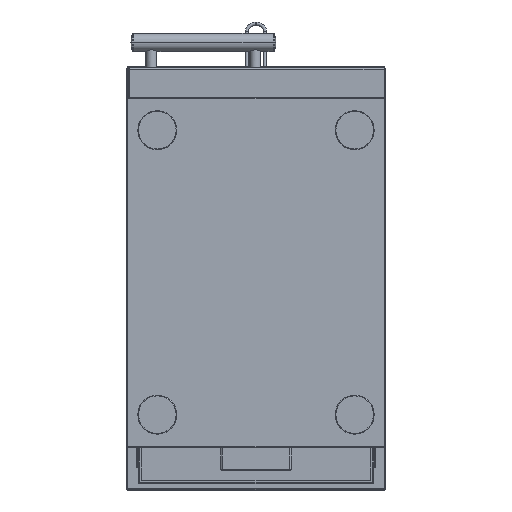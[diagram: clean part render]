
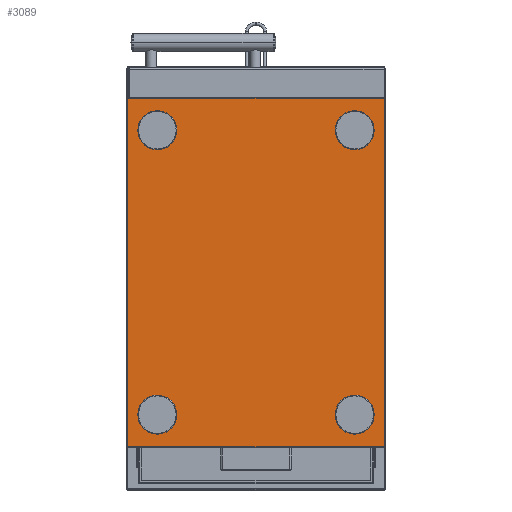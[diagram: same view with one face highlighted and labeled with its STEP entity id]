
A CAD part, front view. The second image highlights one B-rep face of the part: STEP entity #3089.
In plain terms, the highlighted planar face has unit normal (0, -1, 0).
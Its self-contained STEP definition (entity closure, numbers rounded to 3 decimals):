
#876=CARTESIAN_POINT('',(152.,-352.5,-219.));
#877=DIRECTION('',(0.,-1.,0.));
#878=DIRECTION('',(1.,0.,0.));
#879=AXIS2_PLACEMENT_3D('',#876,#877,#878);
#881=CARTESIAN_POINT('',(152.,-352.5,-219.));
#882=DIRECTION('',(0.,-1.,0.));
#883=DIRECTION('',(-1.,0.,0.));
#884=AXIS2_PLACEMENT_3D('',#881,#882,#883);
#886=CARTESIAN_POINT('',(152.,-352.5,219.));
#887=DIRECTION('',(0.,-1.,0.));
#888=DIRECTION('',(1.,0.,0.));
#889=AXIS2_PLACEMENT_3D('',#886,#887,#888);
#891=CARTESIAN_POINT('',(152.,-352.5,219.));
#892=DIRECTION('',(0.,-1.,0.));
#893=DIRECTION('',(-1.,0.,0.));
#894=AXIS2_PLACEMENT_3D('',#891,#892,#893);
#896=CARTESIAN_POINT('',(-152.,-352.5,-219.));
#897=DIRECTION('',(0.,1.,0.));
#898=DIRECTION('',(-1.,0.,0.));
#899=AXIS2_PLACEMENT_3D('',#896,#897,#898);
#901=CARTESIAN_POINT('',(-152.,-352.5,-219.));
#902=DIRECTION('',(0.,1.,0.));
#903=DIRECTION('',(1.,0.,0.));
#904=AXIS2_PLACEMENT_3D('',#901,#902,#903);
#906=CARTESIAN_POINT('',(-152.,-352.5,219.));
#907=DIRECTION('',(0.,1.,0.));
#908=DIRECTION('',(-1.,0.,0.));
#909=AXIS2_PLACEMENT_3D('',#906,#907,#908);
#911=CARTESIAN_POINT('',(-152.,-352.5,219.));
#912=DIRECTION('',(0.,1.,0.));
#913=DIRECTION('',(1.,0.,0.));
#914=AXIS2_PLACEMENT_3D('',#911,#912,#913);
#916=DIRECTION('',(0.,0.,-1.));
#917=VECTOR('',#916,536.4);
#918=CARTESIAN_POINT('',(197.2,-352.5,268.2));
#919=LINE('',#918,#917);
#920=DIRECTION('',(-1.,0.,0.));
#921=VECTOR('',#920,394.4);
#922=CARTESIAN_POINT('',(197.2,-352.5,-268.2));
#923=LINE('',#922,#921);
#924=DIRECTION('',(0.,0.,1.));
#925=VECTOR('',#924,536.4);
#926=CARTESIAN_POINT('',(-197.2,-352.5,-268.2));
#927=LINE('',#926,#925);
#928=DIRECTION('',(-1.,0.,0.));
#929=VECTOR('',#928,394.4);
#930=CARTESIAN_POINT('',(197.2,-352.5,268.2));
#931=LINE('',#930,#929);
#1454=CARTESIAN_POINT('',(182.,-352.5,-219.));
#1455=CARTESIAN_POINT('',(122.,-352.5,-219.));
#1456=VERTEX_POINT('',#1454);
#1457=VERTEX_POINT('',#1455);
#1486=CARTESIAN_POINT('',(197.2,-352.5,268.2));
#1487=CARTESIAN_POINT('',(197.2,-352.5,-268.2));
#1488=VERTEX_POINT('',#1486);
#1489=VERTEX_POINT('',#1487);
#1492=CARTESIAN_POINT('',(-197.2,-352.5,268.2));
#1493=VERTEX_POINT('',#1492);
#1496=CARTESIAN_POINT('',(-197.2,-352.5,-268.2));
#1497=VERTEX_POINT('',#1496);
#1554=CARTESIAN_POINT('',(182.,-352.5,219.));
#1555=CARTESIAN_POINT('',(122.,-352.5,219.));
#1556=VERTEX_POINT('',#1554);
#1557=VERTEX_POINT('',#1555);
#1562=CARTESIAN_POINT('',(-182.,-352.5,-219.));
#1563=VERTEX_POINT('',#1562);
#1564=CARTESIAN_POINT('',(-122.,-352.5,-219.));
#1565=VERTEX_POINT('',#1564);
#1570=CARTESIAN_POINT('',(-182.,-352.5,219.));
#1571=VERTEX_POINT('',#1570);
#1572=CARTESIAN_POINT('',(-122.,-352.5,219.));
#1573=VERTEX_POINT('',#1572);
#3052=CARTESIAN_POINT('',(-199.,-352.5,270.));
#3053=DIRECTION('',(0.,-1.,0.));
#3054=DIRECTION('',(0.,0.,-1.));
#3055=AXIS2_PLACEMENT_3D('',#3052,#3053,#3054);
#3056=PLANE('',#3055);
#3058=ORIENTED_EDGE('',*,*,#3057,.T.);
#3060=ORIENTED_EDGE('',*,*,#3059,.T.);
#3061=ORIENTED_EDGE('',*,*,#3020,.T.);
#3062=ORIENTED_EDGE('',*,*,#3043,.F.);
#3063=EDGE_LOOP('',(#3058,#3060,#3061,#3062));
#3064=FACE_OUTER_BOUND('',#3063,.F.);
#3066=ORIENTED_EDGE('',*,*,#3065,.T.);
#3068=ORIENTED_EDGE('',*,*,#3067,.T.);
#3069=EDGE_LOOP('',(#3066,#3068));
#3070=FACE_BOUND('',#3069,.F.);
#3072=ORIENTED_EDGE('',*,*,#3071,.F.);
#3074=ORIENTED_EDGE('',*,*,#3073,.F.);
#3075=EDGE_LOOP('',(#3072,#3074));
#3076=FACE_BOUND('',#3075,.F.);
#3078=ORIENTED_EDGE('',*,*,#3077,.F.);
#3080=ORIENTED_EDGE('',*,*,#3079,.F.);
#3081=EDGE_LOOP('',(#3078,#3080));
#3082=FACE_BOUND('',#3081,.F.);
#3084=ORIENTED_EDGE('',*,*,#3083,.T.);
#3086=ORIENTED_EDGE('',*,*,#3085,.T.);
#3087=EDGE_LOOP('',(#3084,#3086));
#3088=FACE_BOUND('',#3087,.F.);
#880=CIRCLE('',#879,30.);
#885=CIRCLE('',#884,30.);
#890=CIRCLE('',#889,30.);
#895=CIRCLE('',#894,30.);
#900=CIRCLE('',#899,30.);
#905=CIRCLE('',#904,30.);
#910=CIRCLE('',#909,30.);
#915=CIRCLE('',#914,30.);
#3020=EDGE_CURVE('',#1497,#1493,#927,.T.);
#3043=EDGE_CURVE('',#1488,#1493,#931,.T.);
#3057=EDGE_CURVE('',#1488,#1489,#919,.T.);
#3059=EDGE_CURVE('',#1489,#1497,#923,.T.);
#3065=EDGE_CURVE('',#1556,#1557,#890,.T.);
#3067=EDGE_CURVE('',#1557,#1556,#895,.T.);
#3071=EDGE_CURVE('',#1563,#1565,#900,.T.);
#3073=EDGE_CURVE('',#1565,#1563,#905,.T.);
#3077=EDGE_CURVE('',#1571,#1573,#910,.T.);
#3079=EDGE_CURVE('',#1573,#1571,#915,.T.);
#3083=EDGE_CURVE('',#1456,#1457,#880,.T.);
#3085=EDGE_CURVE('',#1457,#1456,#885,.T.);
#3089=ADVANCED_FACE('',(#3064,#3070,#3076,#3082,#3088),#3056,.T.);
